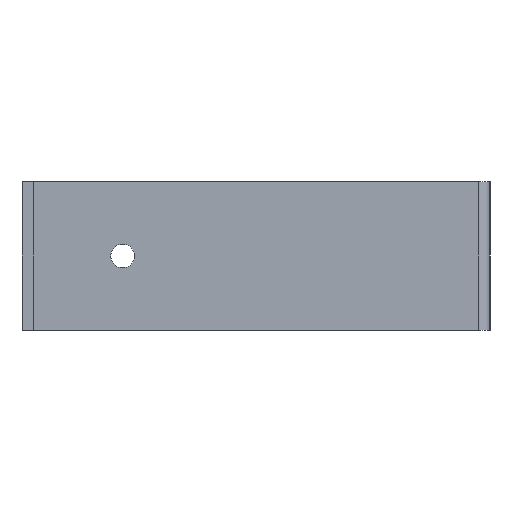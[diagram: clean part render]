
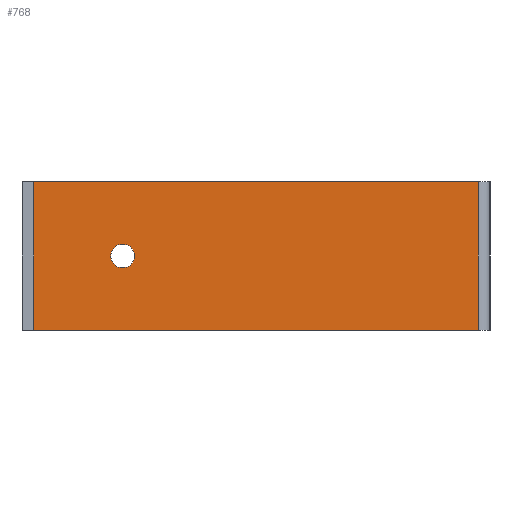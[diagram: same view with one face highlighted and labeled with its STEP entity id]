
A CAD part, left-side view. The second image highlights one B-rep face of the part: STEP entity #768.
In plain terms, the highlighted planar face has unit normal (-1, 0, 0).
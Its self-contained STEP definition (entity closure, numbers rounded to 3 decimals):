
#34=CARTESIAN_POINT('',(25.5,-17.,14.5));
#35=VERTEX_POINT('',#34);
#50=CARTESIAN_POINT('',(25.5,-17.,12.5));
#51=DIRECTION('',(1.,0.,0.));
#52=DIRECTION('',(0.,0.,-1.));
#53=AXIS2_PLACEMENT_3D('',#50,#51,#52);
#54=CIRCLE('',#53,2.);
#55=EDGE_CURVE('',#35,#35,#54,.T.);
#322=CARTESIAN_POINT('',(25.5,-77.,25.));
#323=VERTEX_POINT('',#322);
#331=CARTESIAN_POINT('',(25.5,-77.,0.));
#332=VERTEX_POINT('',#331);
#333=CARTESIAN_POINT('',(25.5,-77.,250.));
#334=DIRECTION('',(0.,0.,-1.));
#335=VECTOR('',#334,250.);
#336=LINE('',#333,#335);
#337=EDGE_CURVE('',#323,#332,#336,.T.);
#356=CARTESIAN_POINT('',(25.5,-2.,0.));
#357=VERTEX_POINT('',#356);
#358=CARTESIAN_POINT('',(25.5,-2.,0.));
#359=DIRECTION('',(0.,-1.,0.));
#360=VECTOR('',#359,750.);
#361=LINE('',#358,#360);
#362=EDGE_CURVE('',#357,#332,#361,.T.);
#742=CARTESIAN_POINT('',(25.5,-40.5,0.));
#743=DIRECTION('',(-1.,0.,0.));
#744=DIRECTION('',(0.,-1.,0.));
#745=AXIS2_PLACEMENT_3D('',#742,#743,#744);
#746=PLANE('',#745);
#747=ORIENTED_EDGE('',*,*,#55,.T.);
#748=EDGE_LOOP('',(#747));
#749=FACE_BOUND('',#748,.T.);
#750=ORIENTED_EDGE('',*,*,#337,.F.);
#751=CARTESIAN_POINT('',(25.5,-2.,25.));
#752=VERTEX_POINT('',#751);
#753=CARTESIAN_POINT('',(25.5,-752.,25.));
#754=DIRECTION('',(0.,1.,0.));
#755=VECTOR('',#754,750.);
#756=LINE('',#753,#755);
#757=EDGE_CURVE('',#323,#752,#756,.T.);
#758=ORIENTED_EDGE('',*,*,#757,.T.);
#759=CARTESIAN_POINT('',(25.5,-2.,0.));
#760=DIRECTION('',(0.,0.,1.));
#761=VECTOR('',#760,250.);
#762=LINE('',#759,#761);
#763=EDGE_CURVE('',#357,#752,#762,.T.);
#764=ORIENTED_EDGE('',*,*,#763,.F.);
#765=ORIENTED_EDGE('',*,*,#362,.T.);
#766=EDGE_LOOP('',(#750,#758,#764,#765));
#767=FACE_BOUND('',#766,.T.);
#768=ADVANCED_FACE('',(#749,#767),#746,.T.);
